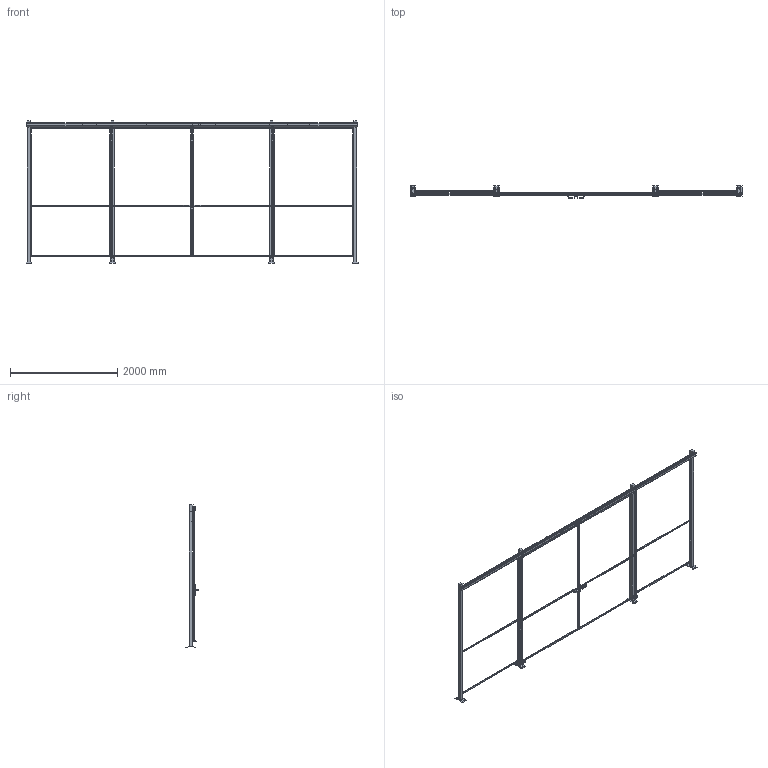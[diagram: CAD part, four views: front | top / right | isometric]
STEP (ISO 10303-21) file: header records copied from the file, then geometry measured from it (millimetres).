
FILE_DESCRIPTION(/* description */ (''),/* implementation_level */ '2;1');
FILE_NAME(/* name */ 'C:\SafeGuarding\ELABORATI\HOR§VED_2025-04-01-11-50-41.stp',/* time_stamp */ '2025-04-01T11:50:42+02:00',/* author */ ('admin'),/* organization */ (''),/* preprocessor_version */ 'ST-DEVELOPER v18.1',/* originating_system */ 'AutoCAD Mechanical',/* authorisation */ '');
FILE_SCHEMA (('AUTOMOTIVE_DESIGN { 1 0 10303 214 3 1 1 }'));
Length unit declared in the file: millimetre
Products named in the file (3): Product; VFPA.REPE2015002400; P_VFMA.V260SDU.2520
Assembly tree (8 placements, depth 2):
  Product
    VFPA.REPE2015002400  x4
    P_VFMA.V260SDU.2520  x4
Bounding box: 6179.99 x 235.91 x 2654 mm (x, y, z)
Volume: 67261952.6 mm3; surface area: 10077551.7 mm2
Topology: 42 solids, 64 shells, 630 faces, 2300 edges, 2340 vertices
Faces by surface type: plane 574, cylinder 56
Full cylindrical faces by diameter (mm): 11 x16, 12 x4, 14 x4, 15 x8, 40 x8
Entity records: 17743 total; most frequent: CARTESIAN_POINT 3734, ORIENTED_EDGE 2676, DIRECTION 2637, EDGE_CURVE 1436, LINE 1299, VECTOR 1299, VERTEX_POINT 1040, AXIS2_PLACEMENT_3D 669
